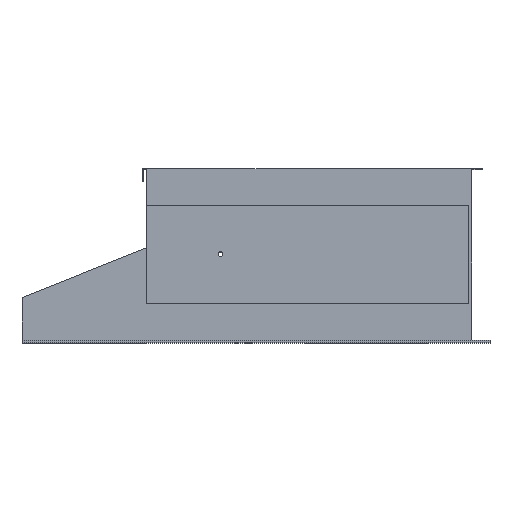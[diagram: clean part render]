
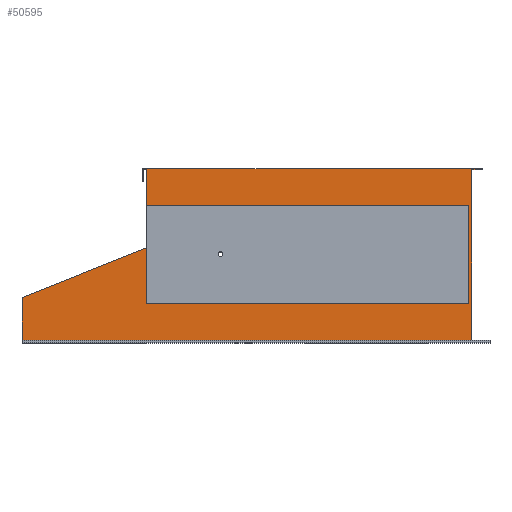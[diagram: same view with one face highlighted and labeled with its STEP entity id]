
A CAD part, top view. The second image highlights one B-rep face of the part: STEP entity #50595.
In plain terms, the highlighted planar face has unit normal (0, 0, 1).
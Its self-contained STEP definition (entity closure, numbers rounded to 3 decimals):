
#983 = ORIENTED_EDGE ( 'NONE', *, *, #27532, .T. ) ;
#2525 = VERTEX_POINT ( 'NONE', #53506 ) ;
#2623 = DIRECTION ( 'NONE',  ( -1., 0., 0. ) ) ;
#2871 = VERTEX_POINT ( 'NONE', #37195 ) ;
#2917 = DIRECTION ( 'NONE',  ( 1., 0., 0. ) ) ;
#2955 = LINE ( 'NONE', #16210, #24290 ) ;
#3027 = LINE ( 'NONE', #34361, #28545 ) ;
#3355 = LINE ( 'NONE', #36251, #37821 ) ;
#3840 = EDGE_CURVE ( 'NONE', #52157, #50897, #15537, .T. ) ;
#4554 = VECTOR ( 'NONE', #24084, 1000. ) ;
#4796 = DIRECTION ( 'NONE',  ( 0., -1., 0. ) ) ;
#5013 = EDGE_CURVE ( 'NONE', #52043, #28835, #9066, .T. ) ;
#5637 = DIRECTION ( 'NONE',  ( 0., -1., 0. ) ) ;
#6306 = LINE ( 'NONE', #6948, #9200 ) ;
#6524 = DIRECTION ( 'NONE',  ( 1., 0., 0. ) ) ;
#6948 = CARTESIAN_POINT ( 'NONE',  ( 907., 279., 243. ) ) ;
#7039 = EDGE_LOOP ( 'NONE', ( #28460, #983, #52215, #29381, #8933, #41128, #45529, #47998, #22786, #19180, #57859, #55602, #10894, #29170, #38796, #26806 ) ) ;
#7273 = LINE ( 'NONE', #29027, #41590 ) ;
#7786 = VECTOR ( 'NONE', #11814, 1000. ) ;
#8371 = VERTEX_POINT ( 'NONE', #19924 ) ;
#8933 = ORIENTED_EDGE ( 'NONE', *, *, #3840, .F. ) ;
#9066 = LINE ( 'NONE', #12331, #43295 ) ;
#9200 = VECTOR ( 'NONE', #38301, 1000. ) ;
#9485 = VECTOR ( 'NONE', #36178, 1000. ) ;
#9588 = EDGE_CURVE ( 'NONE', #2525, #8371, #39113, .T. ) ;
#10191 = CARTESIAN_POINT ( 'NONE',  ( 245., 328.5, 243. ) ) ;
#10894 = ORIENTED_EDGE ( 'NONE', *, *, #5013, .F. ) ;
#11189 = VECTOR ( 'NONE', #47493, 1000. ) ;
#11814 = DIRECTION ( 'NONE',  ( 1., 0., 0. ) ) ;
#11866 = CARTESIAN_POINT ( 'NONE',  ( 913., 0., 243. ) ) ;
#12263 = DIRECTION ( 'NONE',  ( 0., 1., 0. ) ) ;
#12331 = CARTESIAN_POINT ( 'NONE',  ( 907., 79., 243. ) ) ;
#13178 = EDGE_CURVE ( 'NONE', #2525, #39789, #33346, .T. ) ;
#14185 = CARTESIAN_POINT ( 'NONE',  ( 246.5, 0., 243. ) ) ;
#14960 = CARTESIAN_POINT ( 'NONE',  ( 0., 92., 243. ) ) ;
#14976 = CARTESIAN_POINT ( 'NONE',  ( 935., 353.5, 243. ) ) ;
#15537 = LINE ( 'NONE', #55166, #36496 ) ;
#16210 = CARTESIAN_POINT ( 'NONE',  ( 0., 328.5, 243. ) ) ;
#16868 = EDGE_CURVE ( 'NONE', #23028, #44010, #2955, .T. ) ;
#18493 = CARTESIAN_POINT ( 'NONE',  ( 0., 0., 243. ) ) ;
#19180 = ORIENTED_EDGE ( 'NONE', *, *, #57078, .T. ) ;
#19519 = CARTESIAN_POINT ( 'NONE',  ( 253., 351.791, 243. ) ) ;
#19924 = CARTESIAN_POINT ( 'NONE',  ( 253., 79., 243. ) ) ;
#20967 = CARTESIAN_POINT ( 'NONE',  ( 246.5, 351.791, 243. ) ) ;
#21102 = PLANE ( 'NONE',  #45189 ) ;
#21399 = LINE ( 'NONE', #14185, #34572 ) ;
#22577 = VECTOR ( 'NONE', #38354, 1000. ) ;
#22786 = ORIENTED_EDGE ( 'NONE', *, *, #35923, .T. ) ;
#23019 = DIRECTION ( 'NONE',  ( 0., -1., 0. ) ) ;
#23028 = VERTEX_POINT ( 'NONE', #56242 ) ;
#23871 = VERTEX_POINT ( 'NONE', #51564 ) ;
#23949 = CARTESIAN_POINT ( 'NONE',  ( 913., 5., 243. ) ) ;
#24084 = DIRECTION ( 'NONE',  ( 1., 0., 0. ) ) ;
#24290 = VECTOR ( 'NONE', #2623, 1000. ) ;
#24625 = LINE ( 'NONE', #11866, #11189 ) ;
#24794 = CARTESIAN_POINT ( 'NONE',  ( 0., 0., 243. ) ) ;
#25036 = CARTESIAN_POINT ( 'NONE',  ( 0., 351.791, 243. ) ) ;
#25221 = VERTEX_POINT ( 'NONE', #23949 ) ;
#26806 = ORIENTED_EDGE ( 'NONE', *, *, #13178, .T. ) ;
#27403 = VECTOR ( 'NONE', #5637, 1000. ) ;
#27532 = EDGE_CURVE ( 'NONE', #37150, #25221, #28604, .T. ) ;
#28460 = ORIENTED_EDGE ( 'NONE', *, *, #31582, .T. ) ;
#28545 = VECTOR ( 'NONE', #51926, 1000. ) ;
#28604 = LINE ( 'NONE', #42050, #4554 ) ;
#28670 = EDGE_CURVE ( 'NONE', #44010, #57478, #3027, .T. ) ;
#28835 = VERTEX_POINT ( 'NONE', #39711 ) ;
#29027 = CARTESIAN_POINT ( 'NONE',  ( 907., 79., 243. ) ) ;
#29170 = ORIENTED_EDGE ( 'NONE', *, *, #46092, .F. ) ;
#29381 = ORIENTED_EDGE ( 'NONE', *, *, #42017, .T. ) ;
#29993 = DIRECTION ( 'NONE',  ( 0., 0., 1. ) ) ;
#31582 = EDGE_CURVE ( 'NONE', #39789, #37150, #33395, .T. ) ;
#31715 = CARTESIAN_POINT ( 'NONE',  ( -31.724, 79.31, 243. ) ) ;
#31725 = LINE ( 'NONE', #42993, #7786 ) ;
#32011 = VECTOR ( 'NONE', #23019, 1000. ) ;
#33346 = LINE ( 'NONE', #31715, #9485 ) ;
#33395 = LINE ( 'NONE', #18493, #32011 ) ;
#34334 = VERTEX_POINT ( 'NONE', #19519 ) ;
#34361 = CARTESIAN_POINT ( 'NONE',  ( 245., 0., 243. ) ) ;
#34572 = VECTOR ( 'NONE', #45298, 1000. ) ;
#35606 = CARTESIAN_POINT ( 'NONE',  ( 935., 351.791, 243. ) ) ;
#35768 = VERTEX_POINT ( 'NONE', #20967 ) ;
#35923 = EDGE_CURVE ( 'NONE', #23028, #35768, #21399, .T. ) ;
#36178 = DIRECTION ( 'NONE',  ( -0.928, -0.371, 0. ) ) ;
#36251 = CARTESIAN_POINT ( 'NONE',  ( 253., 0., 243. ) ) ;
#36496 = VECTOR ( 'NONE', #56273, 1000. ) ;
#37021 = EDGE_CURVE ( 'NONE', #57478, #52157, #31725, .T. ) ;
#37150 = VERTEX_POINT ( 'NONE', #48585 ) ;
#37195 = CARTESIAN_POINT ( 'NONE',  ( 253., 279., 243. ) ) ;
#37821 = VECTOR ( 'NONE', #4796, 1000. ) ;
#38301 = DIRECTION ( 'NONE',  ( -1., 0., 0. ) ) ;
#38354 = DIRECTION ( 'NONE',  ( 1., 0., 0. ) ) ;
#38796 = ORIENTED_EDGE ( 'NONE', *, *, #9588, .F. ) ;
#39113 = LINE ( 'NONE', #41287, #27403 ) ;
#39711 = CARTESIAN_POINT ( 'NONE',  ( 907., 279., 243. ) ) ;
#39789 = VERTEX_POINT ( 'NONE', #14960 ) ;
#39965 = EDGE_CURVE ( 'NONE', #28835, #2871, #6306, .T. ) ;
#41128 = ORIENTED_EDGE ( 'NONE', *, *, #37021, .F. ) ;
#41275 = EDGE_CURVE ( 'NONE', #34334, #2871, #3355, .T. ) ;
#41287 = CARTESIAN_POINT ( 'NONE',  ( 253., 79., 243. ) ) ;
#41590 = VECTOR ( 'NONE', #6524, 1000. ) ;
#42017 = EDGE_CURVE ( 'NONE', #23871, #50897, #46095, .T. ) ;
#42050 = CARTESIAN_POINT ( 'NONE',  ( 0., 5., 243. ) ) ;
#42113 = CARTESIAN_POINT ( 'NONE',  ( 245., 353.5, 243. ) ) ;
#42993 = CARTESIAN_POINT ( 'NONE',  ( 0., 353.5, 243. ) ) ;
#43295 = VECTOR ( 'NONE', #12263, 1000. ) ;
#43757 = VECTOR ( 'NONE', #47206, 1000. ) ;
#44010 = VERTEX_POINT ( 'NONE', #10191 ) ;
#45189 = AXIS2_PLACEMENT_3D ( 'NONE', #24794, #29993, #2917 ) ;
#45298 = DIRECTION ( 'NONE',  ( 0., 1., 0. ) ) ;
#45492 = FACE_OUTER_BOUND ( 'NONE', #7039, .T. ) ;
#45529 = ORIENTED_EDGE ( 'NONE', *, *, #28670, .F. ) ;
#45671 = CARTESIAN_POINT ( 'NONE',  ( 0., 351.791, 243. ) ) ;
#46092 = EDGE_CURVE ( 'NONE', #8371, #52043, #7273, .T. ) ;
#46095 = LINE ( 'NONE', #25036, #22577 ) ;
#47206 = DIRECTION ( 'NONE',  ( 1., 0., 0. ) ) ;
#47493 = DIRECTION ( 'NONE',  ( 0., -1., 0. ) ) ;
#47998 = ORIENTED_EDGE ( 'NONE', *, *, #16868, .F. ) ;
#48585 = CARTESIAN_POINT ( 'NONE',  ( 0., 5., 243. ) ) ;
#50595 = ADVANCED_FACE ( 'NONE', ( #45492 ), #21102, .T. ) ;
#50897 = VERTEX_POINT ( 'NONE', #35606 ) ;
#51564 = CARTESIAN_POINT ( 'NONE',  ( 913., 351.791, 243. ) ) ;
#51926 = DIRECTION ( 'NONE',  ( 0., 1., 0. ) ) ;
#52043 = VERTEX_POINT ( 'NONE', #54730 ) ;
#52157 = VERTEX_POINT ( 'NONE', #14976 ) ;
#52215 = ORIENTED_EDGE ( 'NONE', *, *, #52671, .F. ) ;
#52671 = EDGE_CURVE ( 'NONE', #23871, #25221, #24625, .T. ) ;
#53506 = CARTESIAN_POINT ( 'NONE',  ( 253., 193.2, 243. ) ) ;
#54730 = CARTESIAN_POINT ( 'NONE',  ( 907., 79., 243. ) ) ;
#55166 = CARTESIAN_POINT ( 'NONE',  ( 935., 0., 243. ) ) ;
#55602 = ORIENTED_EDGE ( 'NONE', *, *, #39965, .F. ) ;
#56242 = CARTESIAN_POINT ( 'NONE',  ( 246.5, 328.5, 243. ) ) ;
#56273 = DIRECTION ( 'NONE',  ( 0., -1., 0. ) ) ;
#56795 = LINE ( 'NONE', #45671, #43757 ) ;
#57078 = EDGE_CURVE ( 'NONE', #35768, #34334, #56795, .T. ) ;
#57478 = VERTEX_POINT ( 'NONE', #42113 ) ;
#57859 = ORIENTED_EDGE ( 'NONE', *, *, #41275, .T. ) ;
